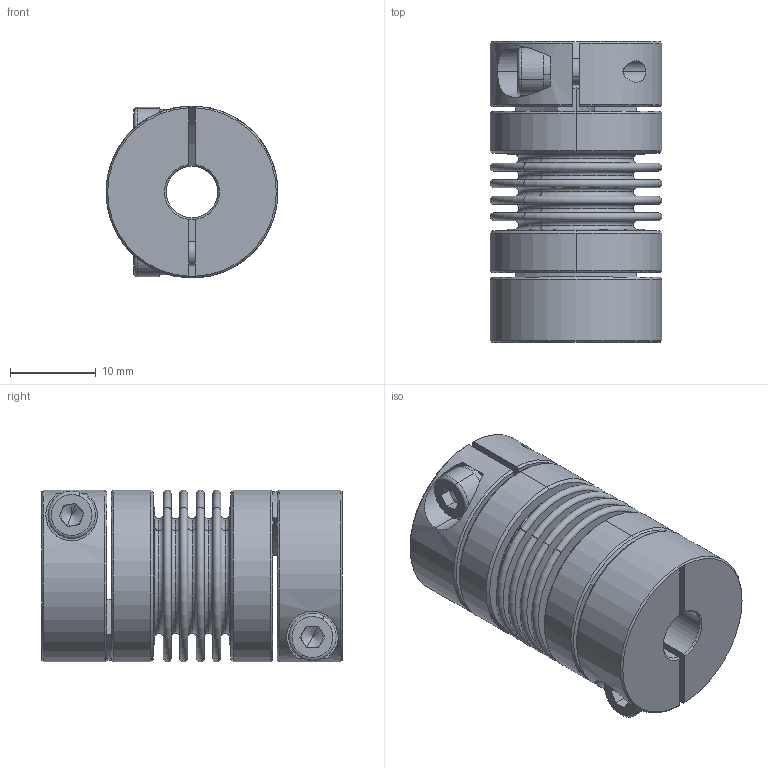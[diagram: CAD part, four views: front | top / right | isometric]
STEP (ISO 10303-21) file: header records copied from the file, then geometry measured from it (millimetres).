
FILE_DESCRIPTION (( 'STEP AP203' ), '1' );
FILE_NAME ('LB-B-D20L34-6-7.STEP', '2021-11-04T01:40:34', ( '' ), ( '' ), 'SwSTEP 2.0', 'SolidWorks 2018', '' );
FILE_SCHEMA (( 'CONFIG_CONTROL_DESIGN' ));
Length unit declared in the file: millimetre
Products named in the file (2): LB-B-D20L34-6-7; 零件4^LB-B-D20L34 波纹管联轴器-组装体
Assembly tree (1 placements, depth 2):
  LB-B-D20L34-6-7
    零件4^LB-B-D20L34 波纹管联轴器-组装体
Bounding box: 20 x 35 x 20 mm (x, y, z)
Volume: 6023.1 mm3; surface area: 9545.5 mm2
Topology: 1 solids, 1 shells, 246 faces, 572 edges, 354 vertices
Faces by surface type: plane 83, torus 68, cylinder 61, cone 34
Entity records: 7500 total; most frequent: CARTESIAN_POINT 1478, DIRECTION 1376, ORIENTED_EDGE 1136, AXIS2_PLACEMENT_3D 604, EDGE_CURVE 568, VERTEX_POINT 354, CIRCLE 354, EDGE_LOOP 288
